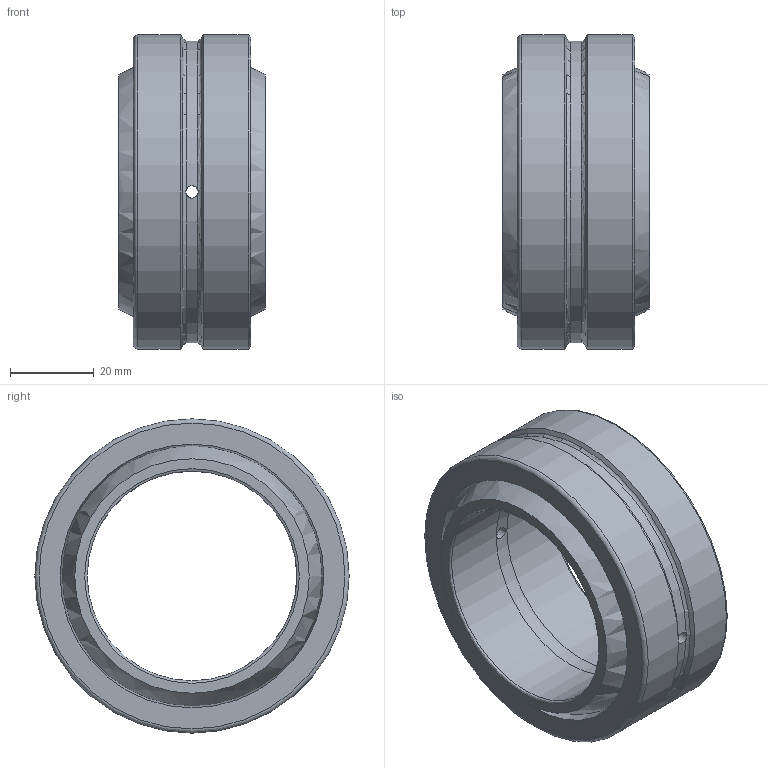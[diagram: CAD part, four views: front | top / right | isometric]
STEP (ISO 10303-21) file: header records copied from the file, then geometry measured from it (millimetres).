
FILE_DESCRIPTION(/* description */ (''),/* implementation_level */ '2;1');
FILE_NAME(/* name */ 'D:\moje\parametrické\GE--\GE--_\GE50E.stp',/* time_stamp */ '2016-08-17T13:59:38+02:00',/* author */ ('OUBALASKO'),/* organization */ (''),/* preprocessor_version */ 'ST-DEVELOPER v15.6',/* originating_system */ 'Autodesk Inventor 2015',/* authorisation */ '');
FILE_SCHEMA (('AUTOMOTIVE_DESIGN { 1 0 10303 214 3 1 1 }'));
Length unit declared in the file: millimetre
Products named in the file (3): GE50E-02; GE50E-01; GE50E
Assembly tree (2 placements, depth 2):
  GE50E
    GE50E-02
    GE50E-01
Bounding box: 35 x 75 x 75 mm (x, y, z)
Volume: 70586.6 mm3; surface area: 28948.2 mm2
Topology: 2 solids, 2 shells, 29 faces, 75 edges, 48 vertices
Faces by surface type: torus 10, cylinder 10, plane 4, sphere 3, cone 2
Full cylindrical faces by diameter (mm): 3 x4, 50 x2, 75 x2
Entity records: 1003 total; most frequent: CARTESIAN_POINT 372, DIRECTION 124, ORIENTED_EDGE 84, EDGE_LOOP 62, AXIS2_PLACEMENT_3D 62, EDGE_CURVE 42, VERTEX_POINT 38, FACE_BOUND 34
